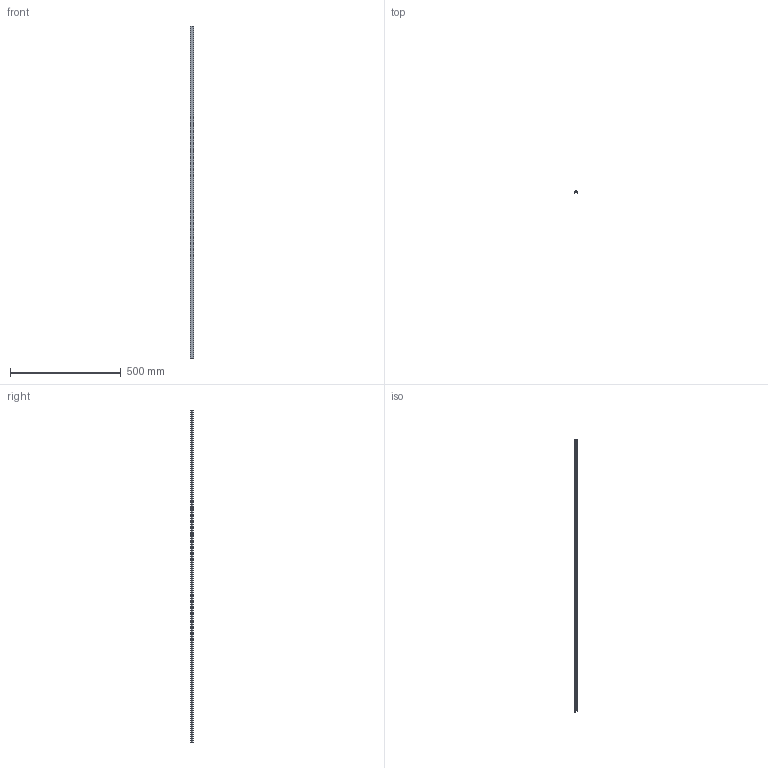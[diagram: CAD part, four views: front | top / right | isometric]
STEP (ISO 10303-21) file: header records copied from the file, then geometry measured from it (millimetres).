
FILE_DESCRIPTION(('STEP AP214'),'1');
FILE_NAME('ILK-FLEXEXT-1500-002_extrusion_Step.stp','2016-10-21T14:44:58',(' '),(' '),'Spatial InterOp 3D',' ',' ');
FILE_SCHEMA(('automotive_design'));
Length unit declared in the file: metre
Products named in the file (2): Solid; 1
Bounding box: 16.99 x 12.51 x 1499.99 mm (x, y, z)
Volume: 91044.1 mm3; surface area: 140582.9 mm2
Topology: 1 solids, 1 shells, 55 faces, 161 edges, 110 vertices
Faces by surface type: plane 30, cylinder 25
Entity records: 2340 total; most frequent: DIRECTION 325, CARTESIAN_POINT 324, ORIENTED_EDGE 318, EDGE_CURVE 159, LINE 111, VECTOR 111, AXIS2_PLACEMENT_3D 107, VERTEX_POINT 106
